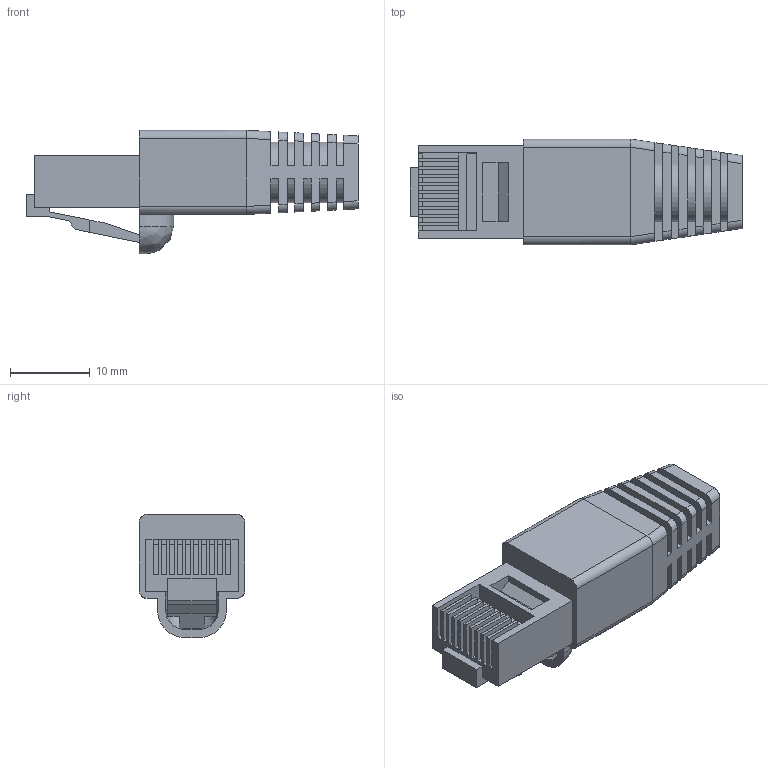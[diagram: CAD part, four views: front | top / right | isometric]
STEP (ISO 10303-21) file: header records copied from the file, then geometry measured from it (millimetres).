
FILE_DESCRIPTION((''),'2;1');
FILE_NAME('CU_RJ50_CABLE_BACKSHELL','2007-06-25T',('jpearson'),(''),'PRO/ENGINEER BY PARAMETRIC TECHNOLOGY CORPORATION, 2006080','PRO/ENGINEER BY PARAMETRIC TECHNOLOGY CORPORATION, 2006080','');
FILE_SCHEMA(('CONFIG_CONTROL_DESIGN'));
Length unit declared in the file: inch
Products named in the file (1): CU_RJ50_CABLE_BACKSHELL
Bounding box: 41.63 x 13.26 x 15.45 mm (x, y, z)
Volume: 4106.6 mm3; surface area: 2939.1 mm2
Topology: 1 solids, 1 shells, 198 faces, 581 edges, 386 vertices
Faces by surface type: plane 154, cylinder 42, bspline 2
Entity records: 6767 total; most frequent: CARTESIAN_POINT 1537, ORIENTED_EDGE 1162, DIRECTION 953, EDGE_CURVE 581, VECTOR 485, LINE 485, VERTEX_POINT 386, AXIS2_PLACEMENT_3D 234
